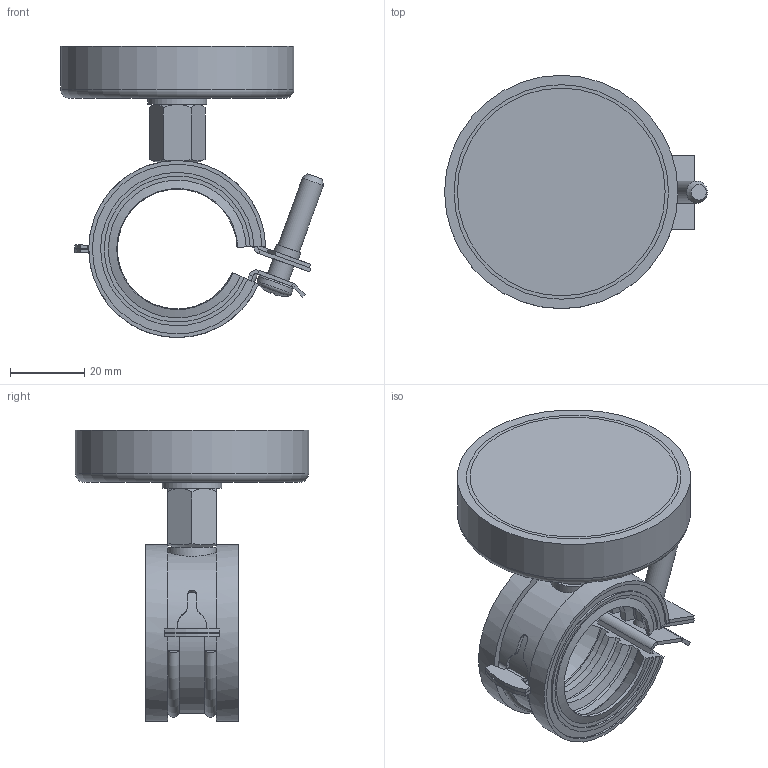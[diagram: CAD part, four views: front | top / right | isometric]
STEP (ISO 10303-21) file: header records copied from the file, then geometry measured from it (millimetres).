
FILE_DESCRIPTION(/* description */ ('Magnethalter Größe "1"'),/* implementation_level */ '2;1');
FILE_NAME(/* name */ '40-099-03-01.stp',/* time_stamp */ '2026-05-11T11:08:52+02:00',/* author */ ('Möller'),/* organization */ (''),/* preprocessor_version */ 'ST-DEVELOPER v20',/* originating_system */ 'Autodesk Inventor 2025',/* authorisation */ '');
FILE_SCHEMA (('AUTOMOTIVE_DESIGN { 1 0 10303 214 3 1 1 }'));
Length unit declared in the file: millimetre
Products named in the file (1): 40-099-03-01
Bounding box: 70.95 x 63 x 78.6 mm (x, y, z)
Volume: 61787.4 mm3; surface area: 25231.6 mm2
Topology: 3 solids, 3 shells, 288 faces, 800 edges, 507 vertices
Faces by surface type: plane 159, cylinder 69, cone 31, bspline 19, torus 7, sphere 3
Full cylindrical faces by diameter (mm): 2.5 x2, 6 x2, 6.8 x1, 7 x1, 8 x1, 8.4 x1, 8.5 x1, 10 x1, 10.5 x1, 16 x1, 63 x1
Entity records: 10552 total; most frequent: CARTESIAN_POINT 2786, ORIENTED_EDGE 1604, DIRECTION 1522, EDGE_CURVE 802, AXIS2_PLACEMENT_3D 542, VERTEX_POINT 507, LINE 438, VECTOR 438
